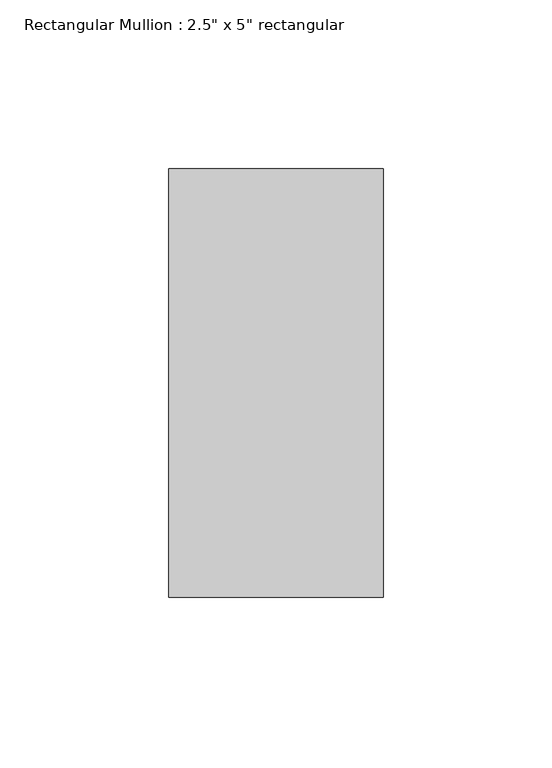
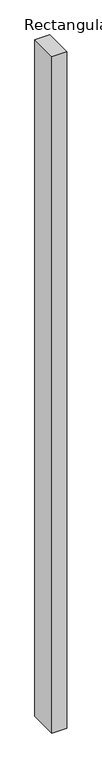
"""IFC4 building model written with IfcOpenShell, lengths in millimetres: member geometry."""

import ifcopenshell
import ifcopenshell.guid

model = None  # the IFC model being written
_history = None  # IfcOwnerHistory: only IFC2X3 demands one
_inside = {}  # id of a spatial element -> (the spatial element, [elements in it])
_under = {}  # id of a project, library or spatial element -> (it, [spatial elements below it])
_declared = {}  # id of a project -> (the project, [libraries it declares])
_typed = {}  # id of a type object -> (the type object, [elements of that type])
_made_of = {}  # id of a material, layer set ... -> (it, [elements and type objects made of it])


def new_model(schema):
    """Start an empty IFC model of exactly this schema.

    Asked for "IFC4X3", IfcOpenShell would pick the latest addendum, in which some entities
    have other attributes; the version numbers below select the first issue.
    IFC2X3 requires an IfcOwnerHistory on every rooted entity: one is made here for all.
    """
    global model, _history
    if schema == "IFC4X3":
        model = ifcopenshell.file(schema_version=(4, 3, 0, 0))
    else:
        model = ifcopenshell.file(schema=schema)
    _inside.clear()
    _under.clear()
    _declared.clear()
    _typed.clear()
    _made_of.clear()
    _history = None
    if model.schema == "IFC2X3":
        org = make("IfcOrganization", Name="unknown")
        user = make(
            "IfcPersonAndOrganization",
            ThePerson=make("IfcPerson", FamilyName="unknown"),
            TheOrganization=org,
        )
        app = make(
            "IfcApplication",
            ApplicationDeveloper=org,
            Version="unknown",
            ApplicationFullName="unknown",
            ApplicationIdentifier="unknown",
        )
        _history = make(
            "IfcOwnerHistory",
            OwningUser=user,
            OwningApplication=app,
            ChangeAction="ADDED",
            CreationDate=0,
        )
    return model


def make(cls, **values):
    """One entity of the class cls with the attributes given. An attribute that is None is left unset."""
    return model.create_entity(
        cls, **{name: value for name, value in values.items() if value is not None}
    )


def rooted(cls, **values):
    """An entity with a GlobalId (a new one), such as an element, a storey or a relation."""
    return make(cls, GlobalId=ifcopenshell.guid.new(), OwnerHistory=_history, **values)


def si_unit(unit_type, name, prefix=None):
    """IfcSIUnit, for example si_unit("LENGTHUNIT", "METRE", prefix="MILLI")."""
    return make("IfcSIUnit", UnitType=unit_type, Prefix=prefix, Name=name)


def assignment(units):
    """IfcUnitAssignment: the units of a project."""
    return None if units is None else make("IfcUnitAssignment", Units=units)


def point(xyz):
    """IfcCartesianPoint."""
    return None if xyz is None else make("IfcCartesianPoint", Coordinates=xyz)


def direction(xyz):
    """IfcDirection."""
    return None if xyz is None else make("IfcDirection", DirectionRatios=xyz)


def frame(location, z_axis=None, x_axis=None):
    """IfcAxis2Placement3D, a coordinate frame: its origin and axes. An axis left out is left unset."""
    return make(
        "IfcAxis2Placement3D",
        Location=point(location),
        Axis=direction(z_axis),
        RefDirection=direction(x_axis),
    )


def origin():
    """The frame at (0, 0, 0) with its axes left unset."""
    return frame((0.0, 0.0, 0.0))


def place(relative_to, where):
    """IfcLocalPlacement: puts the frame where relative to a parent placement (None: the world)."""
    return make(
        "IfcLocalPlacement", PlacementRelTo=relative_to, RelativePlacement=where
    )


def context(
    kind, dimensions, precision=None, world=None, true_north=None, identifier=None
):
    """IfcGeometricRepresentationContext, for example the 3D "Model" context."""
    return make(
        "IfcGeometricRepresentationContext",
        ContextIdentifier=identifier,
        ContextType=kind,
        CoordinateSpaceDimension=dimensions,
        Precision=precision,
        WorldCoordinateSystem=world,
        TrueNorth=true_north,
    )


def project(units=None, contexts=None):
    """IfcProject with its units and contexts."""
    return rooted(
        "IfcProject",
        Name="project",
        RepresentationContexts=contexts,
        UnitsInContext=assignment(units),
    )


def spatial(cls, under=None, at=None, **own):
    """A site, building, storey or space (cls), placed at a placement, below another one or the project."""
    s = rooted(cls, ObjectPlacement=at, **own)
    if under is not None:
        _under.setdefault(under.id(), (under, []))[1].append(s)
    return s


def polyline(points):
    """IfcPolyline through the points."""
    return make("IfcPolyline", Points=[point(p) for p in points])


def outline(outer, holes=None, kind="AREA"):
    """IfcArbitraryClosedProfileDef: a profile drawn as a closed curve; with holes, ...WithVoids."""
    if holes is None:
        return make("IfcArbitraryClosedProfileDef", ProfileType=kind, OuterCurve=outer)
    return make(
        "IfcArbitraryProfileDefWithVoids",
        ProfileType=kind,
        OuterCurve=outer,
        InnerCurves=holes,
    )


def extrude(swept, where, along, depth):
    """IfcExtrudedAreaSolid: the profile swept, set in the frame where, extruded along a direction by depth."""
    return make(
        "IfcExtrudedAreaSolid",
        SweptArea=swept,
        Position=where,
        ExtrudedDirection=direction(along),
        Depth=depth,
    )


def shape(context_of_items, identifier, shape_type, items):
    """IfcShapeRepresentation: the items that make up one representation, for example the "Body"."""
    return make(
        "IfcShapeRepresentation",
        ContextOfItems=context_of_items,
        RepresentationIdentifier=identifier,
        RepresentationType=shape_type,
        Items=items,
    )


def source(mapping_origin, context_of_items, identifier, shape_type, items):
    """IfcRepresentationMap: a shape defined once, which mapped items show again and again."""
    return make(
        "IfcRepresentationMap",
        MappingOrigin=mapping_origin,
        MappedRepresentation=shape(context_of_items, identifier, shape_type, items),
    )


def transform(
    local_origin,
    x_axis=None,
    y_axis=None,
    z_axis=None,
    scale=None,
    scale2=None,
    scale3=None,
    uniform=True,
):
    """IfcCartesianTransformationOperator3D, or its non-uniform kind. x_axis, y_axis, z_axis: its Axis1, 2, 3."""
    if uniform:
        return make(
            "IfcCartesianTransformationOperator3D",
            Axis1=direction(x_axis),
            Axis2=direction(y_axis),
            LocalOrigin=point(local_origin),
            Scale=scale,
            Axis3=direction(z_axis),
        )
    return make(
        "IfcCartesianTransformationOperator3DnonUniform",
        Axis1=direction(x_axis),
        Axis2=direction(y_axis),
        LocalOrigin=point(local_origin),
        Scale=scale,
        Axis3=direction(z_axis),
        Scale2=scale2,
        Scale3=scale3,
    )


def mapped(mapping_source, mapping_target):
    """IfcMappedItem: shows the shape of a source again, moved by a transform."""
    return make(
        "IfcMappedItem", MappingSource=mapping_source, MappingTarget=mapping_target
    )


def made_of(thing, what):
    """Note that an element or type object is made of a material, layer set ...; save() writes the relation."""
    if what is not None:
        _made_of.setdefault(what.id(), (what, []))[1].append(thing)
    return thing


def element(
    cls,
    number,
    at=None,
    inside=None,
    cuts=None,
    type_object=None,
    material=None,
    context=None,
    identifier="Body",
    shape_type=None,
    held_by="IfcProductDefinitionShape",
    body=None,
    shapes=None,
    **own,
):
    """One element of the class cls, such as IfcWall. Its Tag is "e" and its number.

    at: its placement. inside: the storey or other place that contains it. cuts: it is an
    opening in that element (IfcRelVoidsElement). A single representation is given by context,
    identifier, shape_type and body (its items); several are given by shapes. held_by: the class
    of the entity that holds the representations. save() writes the other relations.
    """
    e = rooted(cls, Tag="e%d" % number, ObjectPlacement=at, **own)
    if body is not None:
        shapes = [shape(context, identifier, shape_type, body)]
    if shapes is not None:
        e.Representation = make(held_by, Representations=shapes)
    if inside is not None:
        _inside.setdefault(inside.id(), (inside, []))[1].append(e)
    if cuts is not None:
        rooted(
            "IfcRelVoidsElement", RelatingBuildingElement=cuts, RelatedOpeningElement=e
        )
    if type_object is not None:
        _typed.setdefault(type_object.id(), (type_object, []))[1].append(e)
    return made_of(e, material)


def aggregate(whole, parts):
    """IfcRelAggregates: a whole, such as a stair, and the parts it consists of."""
    return rooted("IfcRelAggregates", RelatingObject=whole, RelatedObjects=parts)


def save(model, path):
    """Write the relations noted so far, then the file.

    IfcRelAggregates (storeys below a building ...), IfcRelContainedInSpatialStructure (elements
    in a storey), IfcRelDefinesByType, IfcRelAssociatesMaterial and IfcRelDeclares: one each for
    every whole, place, type object, material and project.
    """
    for whole, parts in _under.values():
        aggregate(whole, parts)
    for where, things in _inside.values():
        rooted(
            "IfcRelContainedInSpatialStructure",
            RelatedElements=things,
            RelatingStructure=where,
        )
    for kind, things in _typed.values():
        rooted("IfcRelDefinesByType", RelatedObjects=things, RelatingType=kind)
    for what, things in _made_of.values():
        rooted("IfcRelAssociatesMaterial", RelatedObjects=things, RelatingMaterial=what)
    for by, libraries in _declared.values():
        rooted("IfcRelDeclares", RelatingContext=by, RelatedDefinitions=libraries)
    model.write(path)


def member_3783eaa0(model_context):
    return source(origin(), model_context, "Body", "SweptSolid", [
        extrude(outline(polyline([(0.0, 63.5), (0.0, -63.5), (-63.5, -63.5), (-63.5, 63.5), (0.0, 63.5)])), frame((0.0, 0.0, -3073.4), z_axis=(0.0, 0.0, 1.0), x_axis=(1.0, 0.0, 0.0)), (0.0, 0.0, 1.0), 3073.4),
    ])


if __name__ == "__main__":
    model = new_model("IFC4")
    model_context = context("Model", 3, world=origin())
    ifc_project = project(units=[si_unit("LENGTHUNIT", "METRE", prefix="MILLI")], contexts=[model_context])
    site = spatial("IfcSite", under=ifc_project)
    building = spatial("IfcBuilding", under=site)
    placement = place(None, origin())
    member_shape = member_3783eaa0(model_context)
    element("IfcMember", 1, ObjectType="Rectangular Mullion : 2.5\" x 5\" rectangular", at=placement, inside=building, context=model_context, shape_type="MappedRepresentation", body=[
        mapped(member_shape, transform((0.0, 0.0, 0.0), x_axis=(1.0, 0.0, 0.0), y_axis=(0.0, 1.0, 0.0), z_axis=(0.0, 0.0, 1.0))),
    ])
    save(model, "model.ifc")
